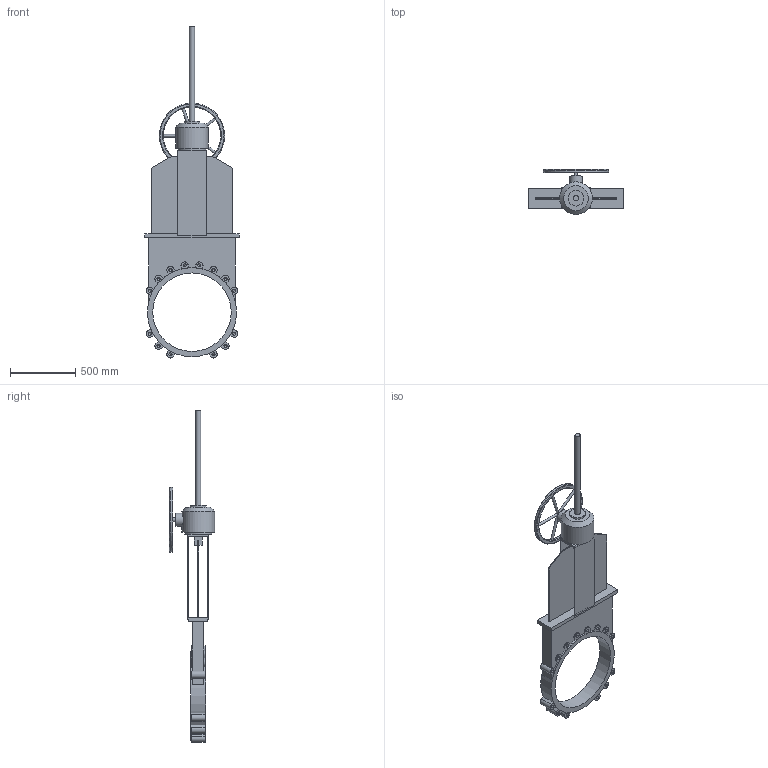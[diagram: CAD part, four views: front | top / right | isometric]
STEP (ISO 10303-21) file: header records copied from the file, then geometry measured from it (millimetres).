
FILE_DESCRIPTION(('STEP AP203'), '1');
FILE_NAME('Çàäâèæêà øèáåðíàÿ K21GV DN600 ðåäóêòîð+âûäâèæíîé øïèíäåëü', '', ('UNSPECIFIED'), ('UNSPECIFIED'), 'ASCON STEP Converter 1.6', 'ASCON Math Kernel', '');
FILE_SCHEMA(('CONFIG_CONTROL_DESIGN'));
Length unit declared in the file: millimetre
Bounding box: 720 x 345 x 2540.45 mm (x, y, z)
Volume: 49628115.9 mm3; surface area: 3274213.1 mm2
Topology: 1 solids, 1 shells, 247 faces, 636 edges, 406 vertices
Faces by surface type: plane 141, cylinder 73, cone 29, torus 4
Full cylindrical faces by diameter (mm): 20 x5, 23.752 x28, 30 x1, 40 x2, 100 x1, 120 x1, 210 x1, 250 x1, 500 x1, 600 x1, 682 x1
Entity records: 11373 total; most frequent: CARTESIAN_POINT 3662, DIRECTION 1196, ORIENTED_EDGE 1086, EDGE_CURVE 543, AXIS2_PLACEMENT_3D 457, VERTEX_POINT 390, EDGE_LOOP 355, LINE 282
